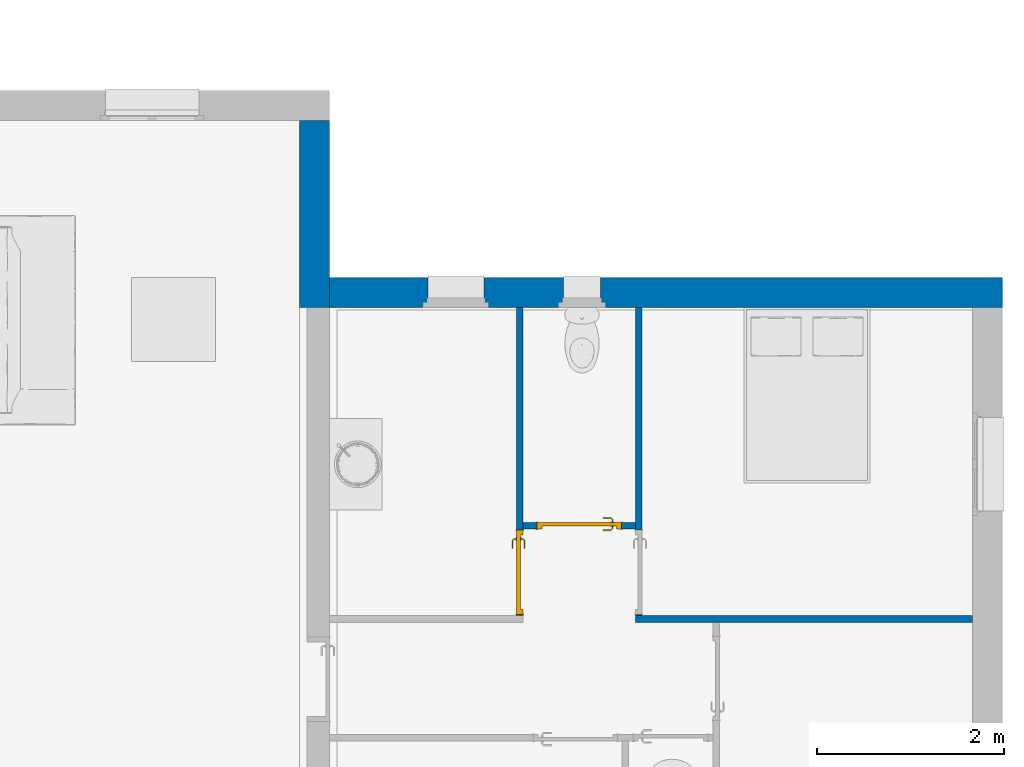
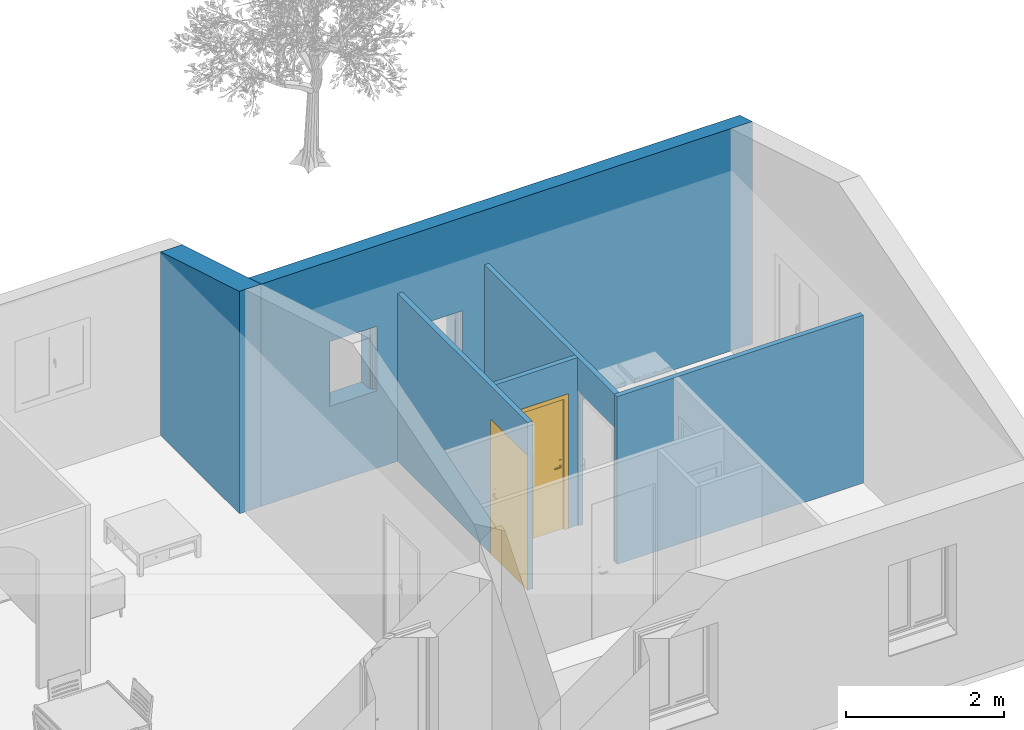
# One storey, part 6 of 18: 6 walls, 2 doors, 5 openings.
"""IFC2X3 building model written with IfcOpenShell, lengths in metres."""

from ifc_helpers import new_model, entity, si_unit, converted_unit, derived_unit, direction, frame, frame_2d, origin, place, context, subcontext, project, spatial, polyline, rectangle, extrude, clip, bounded_halfspace, faceted_brep, source, transform, mapped, material, material_list, layer, layer_set, layer_usage, type_object, type_shapes, element, fill, save


model = new_model("IFC2X3")

# Units and contexts
model_context = context("Model", 3, precision=1e-05, world=origin(), true_north=direction((6.12303176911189e-17, 1.0)))
body_context = subcontext(model_context, "Body", "Model", "MODEL_VIEW")
ifc_project = project(units=[si_unit("LENGTHUNIT", "METRE"), si_unit("AREAUNIT", "SQUARE_METRE"), si_unit("VOLUMEUNIT", "CUBIC_METRE"), converted_unit("PLANEANGLEUNIT", "DEGREE", entity("IfcRatioMeasure", 0.0174532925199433), si_unit("PLANEANGLEUNIT", "RADIAN"), dimensions=[0, 0, 0, 0, 0, 0, 0]), si_unit("MASSUNIT", "GRAM", prefix="KILO"), derived_unit("MASSDENSITYUNIT", [(si_unit("MASSUNIT", "GRAM", prefix="KILO"), 1), (si_unit("LENGTHUNIT", "METRE"), -3)]), derived_unit("MOMENTOFINERTIAUNIT", [(si_unit("LENGTHUNIT", "METRE"), 4)]), si_unit("TIMEUNIT", "SECOND"), si_unit("FREQUENCYUNIT", "HERTZ"), si_unit("THERMODYNAMICTEMPERATUREUNIT", "DEGREE_CELSIUS"), derived_unit("THERMALTRANSMITTANCEUNIT", [(si_unit("MASSUNIT", "GRAM", prefix="KILO"), 1), (si_unit("THERMODYNAMICTEMPERATUREUNIT", "KELVIN"), -1), (si_unit("TIMEUNIT", "SECOND"), -3)]), derived_unit("VOLUMETRICFLOWRATEUNIT", [(si_unit("LENGTHUNIT", "METRE"), 3), (si_unit("TIMEUNIT", "SECOND"), -1)]), si_unit("ELECTRICCURRENTUNIT", "AMPERE"), si_unit("ELECTRICVOLTAGEUNIT", "VOLT"), si_unit("POWERUNIT", "WATT"), si_unit("FORCEUNIT", "NEWTON", prefix="KILO"), si_unit("ILLUMINANCEUNIT", "LUX"), si_unit("LUMINOUSFLUXUNIT", "LUMEN"), si_unit("LUMINOUSINTENSITYUNIT", "CANDELA"), derived_unit("USERDEFINED", [(si_unit("MASSUNIT", "GRAM", prefix="KILO"), -1), (si_unit("LENGTHUNIT", "METRE"), -2), (si_unit("TIMEUNIT", "SECOND"), 3), (si_unit("LUMINOUSFLUXUNIT", "LUMEN"), 1)]), derived_unit("LINEARVELOCITYUNIT", [(si_unit("LENGTHUNIT", "METRE"), 1), (si_unit("TIMEUNIT", "SECOND"), -1)]), si_unit("PRESSUREUNIT", "PASCAL"), derived_unit("USERDEFINED", [(si_unit("LENGTHUNIT", "METRE"), -2), (si_unit("MASSUNIT", "GRAM", prefix="KILO"), 1), (si_unit("TIMEUNIT", "SECOND"), -2)]), derived_unit("LINEARFORCEUNIT", [(si_unit("MASSUNIT", "GRAM", prefix="KILO"), 1), (si_unit("LENGTHUNIT", "METRE"), 1), (si_unit("TIMEUNIT", "SECOND"), -2), (si_unit("LENGTHUNIT", "METRE"), -1)]), derived_unit("PLANARFORCEUNIT", [(si_unit("MASSUNIT", "GRAM", prefix="KILO"), 1), (si_unit("LENGTHUNIT", "METRE"), 1), (si_unit("TIMEUNIT", "SECOND"), -2), (si_unit("LENGTHUNIT", "METRE"), -2)])], contexts=[model_context])

# Site, building, storey
site_placement = place(None, origin())
site = spatial("IfcSite", under=ifc_project, at=site_placement, Name="Surface", CompositionType="ELEMENT")
building_placement = place(site_placement, origin())
building = spatial("IfcBuilding", under=site, at=building_placement, CompositionType="ELEMENT")
storey_placement = place(building_placement, origin())
storey = spatial("IfcBuildingStorey", under=building, at=storey_placement, Name="RDC", CompositionType="ELEMENT", Elevation=-1.94916083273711e-14)

# Wall
ifc_material_1 = material(Name="Maçonnerie - Enduit")
ifc_layer_1 = layer(ifc_material_1, 0.02)
ifc_material_2 = material(Name="Blocs béton manufacturés")
ifc_layer_2 = layer(ifc_material_2, 0.2)
ifc_material_3 = material(Name="Maçonnerie - Isolant")
ifc_layer_3 = layer(ifc_material_3, 0.1)
ifc_layer_set_1 = layer_set([ifc_layer_1, ifc_layer_2, ifc_layer_3], Name="Mur de base:Ext. Parpaing 20 + Isolant 10")
ifc_layer_usage_1 = layer_usage(ifc_layer_set_1, "AXIS2", "NEGATIVE", 0.16)
wall_type_1 = type_object("IfcWallType", Name="Mur de base:Ext. Parpaing 20 + Isolant 10", PredefinedType="STANDARD", material=ifc_layer_set_1)
wall_1_placement = place(storey_placement, frame((-11.2682926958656, 8.66737977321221, 0.0), z_axis=(0.0, 0.0, 1.0), x_axis=(0.0, -1.0, 0.0)))
element("IfcWallStandardCase", 1, at=wall_1_placement, inside=storey, type_object=wall_type_1, material=ifc_layer_usage_1, Name="Mur de base:Ext. Parpaing 20 + Isolant 10", ObjectType="Mur de base:Ext. Parpaing 20 + Isolant 10", context=body_context, shape_type="Clipping", body=[
    clip(extrude(rectangle(XDim=2.0, YDim=0.320000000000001, at=frame_2d((1.0, 0.0), x_axis=(-1.0, 0.0))), origin(), (0.0, 0.0, 1.0), 3.44600000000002), bounded_halfspace(frame((0.0, -0.16, 2.84600000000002), z_axis=(-0.287347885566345, 0.0, 0.957826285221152), x_axis=(0.0, -1.0, 0.0)), False, frame((0.0, -0.16, 2.84600000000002)), polyline([(0.0, 0.0), (2.0, 0.0), (2.0, 0.0800000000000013), (2.0, 0.320000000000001), (1.68, 0.320000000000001), (0.0, 0.320000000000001), (0.0, 0.0)]))),
])

# Wall, openings
ifc_layer_usage_2 = layer_usage(ifc_layer_set_1, "AXIS2", "NEGATIVE", 0.16)
wall_2_placement = place(storey_placement, frame((-11.1082926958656, 6.82737977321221, 0.0)))
wall_2 = element("IfcWallStandardCase", 2, at=wall_2_placement, inside=storey, type_object=wall_type_1, material=ifc_layer_usage_2, Name="Mur de base:Ext. Parpaing 20 + Isolant 10", ObjectType="Mur de base:Ext. Parpaing 20 + Isolant 10", context=body_context, shape_type="Clipping", body=[
    clip(extrude(rectangle(XDim=7.2, YDim=0.320000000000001, at=frame_2d((3.6, 0.0), x_axis=(-1.0, 0.0))), origin(), (0.0, 0.0, 1.0), 3.44600000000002), bounded_halfspace(frame((0.0, -0.159999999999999, 3.44600000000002), z_axis=(0.0, 0.287347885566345, 0.957826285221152), x_axis=(-1.0, 0.0, 0.0)), False, frame((0.0, -0.159999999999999, 3.44600000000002)), polyline([(0.0, 0.0), (6.88, 0.0), (7.2, 0.0), (7.2, 0.32), (0.0, 0.32), (0.0, 0.0)]))),
])
opening_1_placement = place(wall_2_placement, frame((1.0, -0.500000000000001, 1.1240395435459)))
element("IfcOpeningElement", 3, at=opening_1_placement, cuts=wall_2, Name="Mur de base:Ext. Parpaing 20 + Isolant 10", ObjectType="Opening", context=body_context, shape_type="Brep", body=[
    faceted_brep([(0.0499999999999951, 0.419999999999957, 0.0759604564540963), (0.0499999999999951, 0.440000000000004, 0.0759604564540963), (0.0499999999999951, 0.440000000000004, 1.0259604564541), (0.0499999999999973, 1.0, 1.0259604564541), (0.0499999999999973, 1.0, 0.0), (0.0499999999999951, 0.419999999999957, 0.0609604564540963), (0.649999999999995, 0.0, 0.0759604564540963), (0.649999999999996, 0.340000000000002, 0.0759604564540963), (0.649999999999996, 0.340000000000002, 1.0259604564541), (0.649999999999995, 0.0, 1.0259604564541), (0.0499999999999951, 0.0, 0.0759604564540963), (0.0499999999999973, 0.340000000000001, 0.0759604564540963), (0.0, 0.340000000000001, 0.0759604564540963), (0.0, 0.39, 0.0759604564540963), (0.0399999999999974, 0.39, 0.0759604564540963), (0.0399999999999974, 0.440000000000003, 0.0759604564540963), (0.649999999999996, 0.419999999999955, 0.0759604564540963), (0.649999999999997, 0.440000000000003, 0.0759604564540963), (0.659999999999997, 0.440000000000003, 0.0759604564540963), (0.659999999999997, 0.39, 0.0759604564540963), (0.699999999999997, 0.39, 0.0759604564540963), (0.699999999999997, 0.340000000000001, 0.0759604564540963), (0.0499999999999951, 0.0, 1.0259604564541), (0.649999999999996, 0.440000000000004, 1.0259604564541), (0.649999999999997, 1.0, 1.0259604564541), (0.649999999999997, 1.0, 0.0), (0.649999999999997, 0.419999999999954, 0.0609604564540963), (0.0, 0.340000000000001, 1.0759604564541), (0.0, 0.39, 1.0759604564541), (0.699999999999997, 0.39, 1.0759604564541), (0.659999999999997, 0.39, 1.0359604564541), (0.0399999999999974, 0.39, 1.0359604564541), (0.0399999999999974, 0.440000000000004, 1.0359604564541), (0.659999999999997, 0.440000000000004, 1.0359604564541), (0.0499999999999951, 0.340000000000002, 1.0259604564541), (0.699999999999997, 0.340000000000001, 1.0759604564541)], [[[0, 1, 2, 3, 4, 5]], [[6, 7, 8, 9]], [[10, 11, 12, 13, 14, 15, 1, 0, 16, 17, 18, 19, 20, 21, 7, 6]], [[10, 6, 9, 22]], [[3, 2, 23, 24]], [[3, 24, 25, 4]], [[4, 25, 26, 5]], [[5, 26, 16, 0]], [[12, 27, 28, 13]], [[13, 28, 29, 20, 19, 30, 31, 14]], [[14, 31, 32, 15]], [[15, 32, 33, 18, 17, 23, 2, 1]], [[11, 34, 8, 7, 21, 35, 27, 12]], [[27, 35, 29, 28]], [[30, 33, 32, 31]], [[29, 35, 21, 20]], [[19, 18, 33, 30]], [[9, 8, 34, 22]], [[24, 23, 17, 16, 26, 25]], [[22, 34, 11, 10]]]),
])
opening_2_placement = place(wall_2_placement, frame((2.45, -0.500000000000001, 1.1240395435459)))
element("IfcOpeningElement", 4, at=opening_2_placement, cuts=wall_2, Name="Mur de base:Ext. Parpaing 20 + Isolant 10", ObjectType="Opening", context=body_context, shape_type="Brep", body=[
    faceted_brep([(0.0500000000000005, 0.419999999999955, 0.075960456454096), (0.0500000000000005, 0.440000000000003, 0.075960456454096), (0.0500000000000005, 0.440000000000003, 0.825960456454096), (0.0500000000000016, 1.0, 0.825960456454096), (0.0500000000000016, 1.0, 0.0), (0.0500000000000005, 0.419999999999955, 0.0609604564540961), (0.45, 0.0, 0.075960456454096), (0.450000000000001, 0.340000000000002, 0.075960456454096), (0.450000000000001, 0.340000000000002, 0.825960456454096), (0.45, 0.0, 0.825960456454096), (0.0499999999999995, 0.0, 0.075960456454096), (0.0499999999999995, 0.340000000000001, 0.075960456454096), (0.0, 0.340000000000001, 0.075960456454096), (0.0, 0.39, 0.075960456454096), (0.0399999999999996, 0.39, 0.075960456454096), (0.0399999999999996, 0.440000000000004, 0.075960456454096), (0.450000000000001, 0.419999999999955, 0.0759604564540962), (0.45, 0.440000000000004, 0.075960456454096), (0.459999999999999, 0.440000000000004, 0.075960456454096), (0.459999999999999, 0.39, 0.075960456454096), (0.499999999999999, 0.39, 0.075960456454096), (0.499999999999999, 0.340000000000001, 0.075960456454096), (0.0499999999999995, 0.0, 0.825960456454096), (0.450000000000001, 0.440000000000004, 0.825960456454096), (0.450000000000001, 1.0, 0.825960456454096), (0.450000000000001, 1.0, 0.0), (0.45, 0.419999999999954, 0.0609604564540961), (0.0, 0.340000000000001, 0.875960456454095), (0.0, 0.39, 0.875960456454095), (0.499999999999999, 0.39, 0.875960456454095), (0.46, 0.39, 0.835960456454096), (0.0399999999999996, 0.39, 0.835960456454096), (0.0399999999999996, 0.440000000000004, 0.835960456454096), (0.459999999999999, 0.440000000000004, 0.835960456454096), (0.0499999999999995, 0.340000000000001, 0.825960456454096), (0.5, 0.340000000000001, 0.875960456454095)], [[[0, 1, 2, 3, 4, 5]], [[6, 7, 8, 9]], [[10, 11, 12, 13, 14, 15, 1, 0, 16, 17, 18, 19, 20, 21, 7, 6]], [[10, 6, 9, 22]], [[3, 2, 23, 24]], [[3, 24, 25, 4]], [[4, 25, 26, 5]], [[5, 26, 16, 0]], [[12, 27, 28, 13]], [[13, 28, 29, 20, 19, 30, 31, 14]], [[14, 31, 32, 15]], [[15, 32, 33, 18, 17, 23, 2, 1]], [[11, 34, 8, 7, 21, 35, 27, 12]], [[27, 35, 29, 28]], [[30, 33, 32, 31]], [[29, 35, 21, 20]], [[19, 18, 33, 30]], [[9, 8, 34, 22]], [[24, 23, 17, 16, 26, 25]], [[22, 34, 11, 10]]]),
])

# Wall, opening, door
ifc_material_4 = material(Name="Mur par défaut")
ifc_layer_4 = layer(ifc_material_4, 0.07)
ifc_layer_set_2 = layer_set([ifc_layer_4], Name="Mur de base:Int. Plâtre 70 mm")
ifc_layer_usage_3 = layer_usage(ifc_layer_set_2, "AXIS2", "NEGATIVE", 0.035)
wall_type_2 = type_object("IfcWallType", Name="Mur de base:Int. Plâtre 70 mm", PredefinedType="STANDARD", material=ifc_layer_set_2)
wall_3_placement = place(storey_placement, frame((-9.07329269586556, 6.66737977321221, 0.0), z_axis=(0.0, 0.0, 1.0), x_axis=(0.0, -1.0, 0.0)))
wall_3 = element("IfcWallStandardCase", 5, at=wall_3_placement, inside=storey, type_object=wall_type_2, material=ifc_layer_usage_3, Name="Mur de base:Int. Plâtre 70 mm", ObjectType="Mur de base:Int. Plâtre 70 mm", context=body_context, shape_type="SweptSolid", body=[
    extrude(rectangle(XDim=3.3, YDim=0.0699999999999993, at=frame_2d((1.65, 1.66533453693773e-16), x_axis=(-1.0, 0.0))), origin(), (0.0, 0.0, 1.0), 2.6),
])
opening_3_placement = place(wall_3_placement, frame((3.285, 0.0349999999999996, 0.0)))
opening_3 = element("IfcOpeningElement", 6, at=opening_3_placement, cuts=wall_3, Name="Int. Simple:PP (0.83m x 2.04m):1", ObjectType="Opening", context=body_context, shape_type="SweptSolid", body=[
    extrude(rectangle(XDim=2.075, YDim=0.9, at=frame_2d((1.0375, 0.45), x_axis=(1.0, 0.0))), frame((0.0, 0.0, 0.0), z_axis=(0.0, -1.0, 0.0), x_axis=(0.0, 0.0, 1.0)), (0.0, 0.0, 1.0), 0.07),
])
ifc_material_5 = material(Name="Finition Peinture - Blanc satiné")
ifc_material_6 = material(Name="Bois - Panneau de porte")
ifc_material_7 = material(Name="Bois - Cadre de porte")
ifc_material_list_1 = material_list([ifc_material_5, ifc_material_6, ifc_material_7])
ifc_material_list_2 = material_list([ifc_material_6, ifc_material_7, ifc_material_5, ifc_material_7])
door_style = type_object("IfcDoorStyle", Name="Int. Simple:PP (0.83m x 2.04m)", ConstructionType="NOTDEFINED", OperationType="NOTDEFINED", ParameterTakesPrecedence=False, Sizeable=False, material=ifc_material_list_2)
shared_shape = source(origin(), body_context, "Body", "Brep", [
    faceted_brep([(0.105352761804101, -0.00500000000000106, 0.866003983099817), (0.115, -0.00500000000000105, 0.870000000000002), (0.114999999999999, -0.00500000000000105, 1.08), (0.1053527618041, -0.00500000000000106, 1.08399601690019), (0.094999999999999, -0.00500000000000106, 1.08535898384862), (0.0846472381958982, -0.00500000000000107, 1.08399601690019), (0.0749999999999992, -0.00500000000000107, 1.08), (0.0750000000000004, -0.00500000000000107, 0.870000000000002), (0.0846472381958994, -0.00500000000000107, 0.866003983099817), (0.0950000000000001, -0.00500000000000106, 0.86464101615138), (0.1053527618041, 0.0, 1.08399601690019), (0.114999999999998, 0.0, 1.08), (0.115, 0.0, 0.870000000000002), (0.105352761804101, 0.0, 0.866003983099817), (0.0950000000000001, 0.0, 0.86464101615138), (0.0846472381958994, 0.0, 0.866003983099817), (0.0749999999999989, 0.0, 0.870000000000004), (0.0749999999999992, 0.0, 1.08), (0.0846472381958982, 0.0, 1.08399601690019), (0.094999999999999, 0.0, 1.08535898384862)], [[[0, 1, 2, 3, 4, 5, 6, 7, 8, 9]], [[10, 11, 12, 13, 14, 15, 16, 17, 18, 19]], [[16, 15, 8, 7]], [[8, 15, 14, 9]], [[14, 13, 0, 9]], [[13, 12, 1, 0]], [[2, 1, 12, 11]], [[11, 10, 3, 2]], [[3, 10, 19, 4]], [[19, 18, 5, 4]], [[18, 17, 6, 5]], [[7, 6, 17, 16]]]),
    faceted_brep([(0.105352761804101, 0.0399999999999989, 0.866003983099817), (0.115, 0.0399999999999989, 0.870000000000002), (0.114999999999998, 0.0399999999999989, 1.08), (0.105352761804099, 0.0399999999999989, 1.08399601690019), (0.0949999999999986, 0.0399999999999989, 1.08535898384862), (0.084647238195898, 0.0399999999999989, 1.08399601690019), (0.0749999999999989, 0.0399999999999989, 1.08), (0.0750000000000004, 0.0399999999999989, 0.870000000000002), (0.0846472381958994, 0.0399999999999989, 0.866003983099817), (0.0950000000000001, 0.0399999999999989, 0.86464101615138), (0.105352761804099, 0.0449999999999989, 1.08399601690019), (0.114999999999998, 0.0449999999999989, 1.08), (0.115, 0.0449999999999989, 0.870000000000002), (0.105352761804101, 0.0449999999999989, 0.866003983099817), (0.0950000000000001, 0.0449999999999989, 0.86464101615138), (0.0846472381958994, 0.0449999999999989, 0.866003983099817), (0.0749999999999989, 0.0449999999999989, 0.870000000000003), (0.0749999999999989, 0.0449999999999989, 1.08), (0.084647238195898, 0.0449999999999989, 1.08399601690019), (0.0949999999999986, 0.0449999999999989, 1.08535898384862)], [[[0, 1, 2, 3, 4, 5, 6, 7, 8, 9]], [[10, 11, 12, 13, 14, 15, 16, 17, 18, 19]], [[11, 10, 3, 2]], [[3, 10, 19, 4]], [[19, 18, 5, 4]], [[18, 17, 6, 5]], [[7, 6, 17, 16]], [[16, 15, 8, 7]], [[8, 15, 14, 9]], [[14, 13, 0, 9]], [[13, 12, 1, 0]], [[2, 1, 12, 11]]]),
    faceted_brep([(0.0929747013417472, -0.00500000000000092, 1.00778044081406), (0.0970252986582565, -0.0050000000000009, 1.00778044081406), (0.101000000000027, -0.00500000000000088, 1.00699999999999), (0.101000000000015, -0.00500000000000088, 0.993000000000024), (0.0970252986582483, -0.0050000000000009, 0.992219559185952), (0.0929747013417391, -0.00500000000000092, 0.99221955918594), (0.0889999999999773, -0.00500000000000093, 0.992999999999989), (0.0889999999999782, -0.00500000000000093, 1.007), (0.0889999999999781, -0.0326509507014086, 1.007), (0.092974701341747, -0.0310045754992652, 1.00778044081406), (0.10902358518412, -0.0470534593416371, 1.00778044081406), (0.110701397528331, -0.0430028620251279, 1.00778044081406), (0.0970252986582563, -0.0293267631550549, 1.00778044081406), (0.101000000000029, -0.0276803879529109, 1.007), (0.101000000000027, -0.0276803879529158, 0.993000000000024), (0.0970252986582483, -0.0293267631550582, 0.992219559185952), (0.110701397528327, -0.0430028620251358, 0.992219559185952), (0.109023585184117, -0.0470534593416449, 0.99221955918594), (0.0929747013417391, -0.0310045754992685, 0.99221955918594), (0.0889999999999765, -0.0326509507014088, 0.992999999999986), (0.107377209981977, -0.0510281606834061, 1.007), (0.112347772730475, -0.0390281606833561, 1.007), (0.112347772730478, -0.0390281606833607, 0.993000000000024), (0.107377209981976, -0.0510281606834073, 0.992999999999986), (0.195018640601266, -0.0510281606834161, 0.992999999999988), (0.195018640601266, -0.0470534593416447, 0.99221955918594), (0.195018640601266, -0.0430028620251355, 0.992219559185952), (0.195018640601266, -0.039028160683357, 0.993000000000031), (0.195018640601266, -0.0390281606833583, 1.007), (0.195018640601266, -0.0430028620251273, 1.00778044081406), (0.195018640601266, -0.0470534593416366, 1.00778044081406), (0.195018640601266, -0.0510281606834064, 1.00699999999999), (0.147307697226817, -0.0510281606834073, 1.007), (0.152860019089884, -0.045028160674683, 1.0078786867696), (0.15368320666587, -0.039028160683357, 1.007), (0.153683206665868, -0.039028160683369, 0.993000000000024), (0.152860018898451, -0.0450281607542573, 0.992121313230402), (0.147307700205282, -0.0510281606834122, 0.992999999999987)], [[[0, 1, 2, 3, 4, 5, 6, 7]], [[8, 9, 0, 7]], [[9, 10, 11, 12, 1, 0]], [[12, 13, 2, 1]], [[3, 2, 13, 14]], [[14, 15, 4, 3]], [[15, 16, 17, 18, 5, 4]], [[18, 19, 6, 5]], [[7, 6, 19, 8]], [[20, 10, 9, 8]], [[11, 21, 13, 12]], [[14, 13, 21, 22]], [[22, 16, 15, 14]], [[17, 23, 19, 18]], [[8, 19, 23, 20]], [[24, 25, 26, 27, 28, 29, 30, 31]], [[32, 30, 33]], [[31, 30, 32]], [[10, 20, 32]], [[33, 34, 11]], [[21, 11, 34]], [[34, 29, 28]], [[30, 29, 33]], [[29, 34, 33]], [[10, 32, 33]], [[10, 33, 11]], [[22, 21, 34, 28, 27, 35]], [[35, 26, 36]], [[37, 36, 25]], [[22, 35, 16]], [[35, 27, 26]], [[24, 37, 25]], [[23, 17, 37]], [[37, 17, 36]], [[17, 16, 36]], [[16, 35, 36]], [[25, 36, 26]], [[20, 23, 37, 24, 31, 32]]]),
    faceted_brep([(0.0929747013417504, 0.0449999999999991, 1.00778044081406), (0.0889999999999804, 0.044999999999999, 1.007), (0.0889999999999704, 0.044999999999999, 0.992999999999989), (0.0929747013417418, 0.0449999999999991, 0.99221955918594), (0.0970252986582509, 0.0449999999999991, 0.992219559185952), (0.10100000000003, 0.0449999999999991, 0.993000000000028), (0.101000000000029, 0.0449999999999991, 1.007), (0.0970252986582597, 0.0449999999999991, 1.00778044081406), (0.10100000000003, 0.067485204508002, 0.993000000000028), (0.10100000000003, 0.0674852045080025, 1.007), (0.0970252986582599, 0.0691315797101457, 1.00778044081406), (0.110838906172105, 0.0829451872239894, 1.00778044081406), (0.109161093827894, 0.0869957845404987, 1.00778044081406), (0.0929747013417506, 0.070809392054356, 1.00778044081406), (0.0889999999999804, 0.0724557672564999, 1.007), (0.0889999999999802, 0.072455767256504, 0.992999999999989), (0.0929747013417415, 0.0708093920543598, 0.99221955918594), (0.109161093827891, 0.0869957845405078, 0.99221955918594), (0.110838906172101, 0.0829451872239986, 0.992219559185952), (0.0970252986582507, 0.0691315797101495, 0.992219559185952), (0.112485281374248, 0.0789704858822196, 0.993000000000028), (0.112485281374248, 0.0789704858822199, 1.007), (0.107514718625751, 0.0909704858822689, 1.007), (0.107514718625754, 0.090970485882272, 0.992999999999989), (0.195045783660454, 0.0789704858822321, 0.993000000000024), (0.195045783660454, 0.0829451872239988, 0.992219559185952), (0.195045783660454, 0.086995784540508, 0.99221955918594), (0.195045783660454, 0.0909704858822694, 0.992999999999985), (0.195045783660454, 0.0909704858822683, 1.007), (0.195045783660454, 0.0869957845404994, 1.00778044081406), (0.195045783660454, 0.0829451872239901, 1.00778044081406), (0.195045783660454, 0.0789704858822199, 1.007), (0.153765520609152, 0.0789704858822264, 0.993000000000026), (0.153765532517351, 0.0789704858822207, 1.007), (0.152942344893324, 0.0849704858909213, 1.0078786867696), (0.147445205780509, 0.0909704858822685, 1.007), (0.147445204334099, 0.0909704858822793, 0.992999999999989), (0.152942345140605, 0.0849704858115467, 0.992121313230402)], [[[0, 1, 2, 3, 4, 5, 6, 7]], [[6, 5, 8, 9]], [[9, 10, 7, 6]], [[10, 11, 12, 13, 0, 7]], [[13, 14, 1, 0]], [[2, 1, 14, 15]], [[15, 16, 3, 2]], [[16, 17, 18, 19, 4, 3]], [[19, 8, 5, 4]], [[9, 8, 20, 21]], [[21, 11, 10, 9]], [[12, 22, 14, 13]], [[15, 14, 22, 23]], [[23, 17, 16, 15]], [[18, 20, 8, 19]], [[24, 25, 26, 27, 28, 29, 30, 31]], [[21, 20, 32, 24, 31, 33]], [[33, 30, 34]], [[35, 34, 29]], [[21, 33, 11]], [[33, 31, 30]], [[28, 35, 29]], [[22, 12, 35]], [[35, 12, 34]], [[12, 11, 34]], [[11, 33, 34]], [[29, 34, 30]], [[22, 35, 28, 27, 36, 23]], [[36, 26, 37]], [[27, 26, 36]], [[17, 23, 36]], [[37, 32, 18]], [[20, 18, 32]], [[32, 25, 24]], [[26, 25, 37]], [[25, 32, 37]], [[17, 36, 37]], [[17, 37, 18]]]),
    faceted_brep([(0.034999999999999, 0.04, 2.04), (0.865, 0.04, 2.04), (0.864999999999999, 0.04, 0.0), (0.034999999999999, 0.04, 0.0), (0.034999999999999, 0.0, 2.04), (0.034999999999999, 0.0, 0.0), (0.864999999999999, 0.0, 0.0), (0.865, 0.0, 2.04)], [[[0, 1, 2, 3]], [[4, 5, 6, 7]], [[1, 0, 4, 7]], [[2, 1, 7, 6]], [[3, 2, 6, 5]], [[0, 3, 5, 4]]]),
    faceted_brep([(0.0, 0.0, 0.0), (0.0, 0.0699999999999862, 0.0), (0.0500000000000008, 0.0699999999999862, 0.0), (0.0500000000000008, 0.04, 0.0), (0.0349999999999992, 0.04, 0.0), (0.0349999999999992, 0.0, 0.0), (0.0, 0.0, 2.07500000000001), (0.0, 0.0699999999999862, 2.07500000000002), (0.900000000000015, 0.0699999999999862, 2.07500000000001), (0.900000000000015, 0.0699999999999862, 0.0), (0.849999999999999, 0.0699999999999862, 0.0), (0.849999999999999, 0.0699999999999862, 2.025), (0.0500000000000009, 0.0699999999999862, 2.025), (0.0500000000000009, 0.04, 2.025), (0.849999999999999, 0.04, 2.025), (0.849999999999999, 0.04, 0.0), (0.865000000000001, 0.04, 0.0), (0.865000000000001, 0.04, 2.04), (0.0349999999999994, 0.04, 2.04), (0.0349999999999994, 0.0, 2.04), (0.865000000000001, 0.0, 2.04), (0.865000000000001, 0.0, 0.0), (0.900000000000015, 0.0, 0.0), (0.900000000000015, 0.0, 2.07500000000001)], [[[0, 1, 2, 3, 4, 5]], [[1, 0, 6, 7]], [[2, 1, 7, 8, 9, 10, 11, 12]], [[3, 2, 12, 13]], [[4, 3, 13, 14, 15, 16, 17, 18]], [[5, 4, 18, 19]], [[0, 5, 19, 20, 21, 22, 23, 6]], [[8, 23, 22, 9]], [[22, 21, 16, 15, 10, 9]], [[14, 11, 10, 15]], [[20, 17, 16, 21]], [[7, 6, 23, 8]], [[13, 12, 11, 14]], [[19, 18, 17, 20]]]),
    faceted_brep([(0.0149999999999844, 0.0699999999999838, 0.0), (-0.0150000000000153, 0.0699999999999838, 0.0), (-0.0150000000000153, 0.0749999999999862, 0.0), (0.0149999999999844, 0.0749999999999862, 0.0), (0.0149999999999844, 0.0699999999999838, 2.06000000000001), (0.88499999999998, 0.0699999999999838, 2.06000000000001), (0.88499999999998, 0.0699999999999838, 0.0), (0.91499999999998, 0.0699999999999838, 0.0), (0.91499999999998, 0.0699999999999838, 2.09000000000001), (-0.0150000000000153, 0.0699999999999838, 2.09000000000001), (-0.0150000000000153, 0.0749999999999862, 2.09000000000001), (0.91499999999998, 0.0749999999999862, 2.09000000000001), (0.91499999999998, 0.0749999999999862, 0.0), (0.88499999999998, 0.0749999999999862, 0.0), (0.88499999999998, 0.0749999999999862, 2.06000000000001), (0.0149999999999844, 0.0749999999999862, 2.06000000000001)], [[[0, 1, 2, 3]], [[1, 0, 4, 5, 6, 7, 8, 9]], [[2, 1, 9, 10]], [[3, 2, 10, 11, 12, 13, 14, 15]], [[0, 3, 15, 4]], [[6, 13, 12, 7]], [[5, 14, 13, 6]], [[11, 8, 7, 12]], [[10, 9, 8, 11]], [[4, 15, 14, 5]]]),
    faceted_brep([(-0.0150000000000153, -0.00499999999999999, 0.0), (0.0149999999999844, -0.00499999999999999, 0.0), (0.0149999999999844, -0.00499999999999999, 2.06000000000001), (0.88499999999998, -0.00499999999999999, 2.06000000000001), (0.88499999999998, -0.00499999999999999, 0.0), (0.91499999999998, -0.00499999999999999, 0.0), (0.91499999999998, -0.00499999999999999, 2.09000000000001), (-0.0150000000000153, -0.00499999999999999, 2.09000000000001), (-0.0150000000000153, 0.0, 0.0), (-0.0150000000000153, 0.0, 2.09000000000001), (0.0149999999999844, 0.0, 0.0), (0.91499999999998, 0.0, 2.09000000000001), (0.91499999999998, 0.0, 0.0), (0.88499999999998, 0.0, 0.0), (0.88499999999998, 0.0, 2.06000000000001), (0.0149999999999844, 0.0, 2.06000000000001)], [[[0, 1, 2, 3, 4, 5, 6, 7]], [[8, 0, 7, 9]], [[10, 8, 9, 11, 12, 13, 14, 15]], [[1, 10, 15, 2]], [[3, 14, 13, 4]], [[11, 6, 5, 12]], [[9, 7, 6, 11]], [[2, 15, 14, 3]], [[4, 13, 12, 5]], [[1, 0, 8, 10]]]),
])
type_shapes(door_style, [shared_shape])
door_1_placement = place(opening_3_placement, frame((-0.9, -0.0700000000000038, 0.0)))
door_1 = element("IfcDoor", 7, at=door_1_placement, inside=storey, type_object=door_style, material=ifc_material_list_1, Name="Int. Simple:PP (0.83m x 2.04m)", ObjectType="Int. Simple:PP (0.83m x 2.04m)", OverallHeight=2.075, OverallWidth=0.9, context=body_context, shape_type="MappedRepresentation", body=[
    mapped(shared_shape, transform((0.0, 0.0, 0.0), scale=1.0)),
])
fill(opening_3, door_1)

ifc_layer_usage_4 = layer_usage(ifc_layer_set_2, "AXIS2", "NEGATIVE", 0.035)
wall_4_placement = place(storey_placement, frame((-7.83829269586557, 4.33237977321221, 0.0), z_axis=(0.0, 0.0, 1.0), x_axis=(-1.0, 0.0, 0.0)))
wall_4 = element("IfcWallStandardCase", 8, at=wall_4_placement, inside=storey, type_object=wall_type_2, material=ifc_layer_usage_4, Name="Mur de base:Int. Plâtre 70 mm", ObjectType="Mur de base:Int. Plâtre 70 mm", context=body_context, shape_type="SweptSolid", body=[
    extrude(rectangle(XDim=1.2, YDim=0.0700000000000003, at=frame_2d((0.6, -8.67361737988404e-17), x_axis=(-1.0, 0.0))), origin(), (0.0, 0.0, 1.0), 2.6),
])
opening_4_placement = place(wall_4_placement, frame((1.05, 0.0349999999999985, 0.0)))
opening_4 = element("IfcOpeningElement", 9, at=opening_4_placement, cuts=wall_4, Name="Int. Simple:PP (0.83m x 2.04m):1", ObjectType="Opening", context=body_context, shape_type="SweptSolid", body=[
    extrude(rectangle(XDim=2.075, YDim=0.9, at=frame_2d((1.0375, 0.45), x_axis=(1.0, 0.0))), frame((0.0, 0.0, 0.0), z_axis=(0.0, -1.0, 0.0), x_axis=(0.0, 0.0, 1.0)), (0.0, 0.0, 1.0), 0.07),
])
ifc_material_list_3 = material_list([ifc_material_5, ifc_material_6, ifc_material_7])
door_2_placement = place(opening_4_placement, frame((-0.899999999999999, -0.0699999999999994, 0.0)))
door_2 = element("IfcDoor", 10, at=door_2_placement, inside=storey, type_object=door_style, material=ifc_material_list_3, Name="Int. Simple:PP (0.83m x 2.04m)", ObjectType="Int. Simple:PP (0.83m x 2.04m)", OverallHeight=2.075, OverallWidth=0.9, context=body_context, shape_type="MappedRepresentation", body=[
    mapped(shared_shape, transform((0.0, 0.0, 0.0), scale=1.0)),
])
fill(opening_4, door_2)

# Wall, opening
ifc_layer_usage_5 = layer_usage(ifc_layer_set_2, "AXIS2", "NEGATIVE", 0.035)
wall_5_placement = place(storey_placement, frame((-7.80329269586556, 6.66737977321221, 0.0), z_axis=(0.0, 0.0, 1.0), x_axis=(0.0, -1.0, 0.0)))
wall_5 = element("IfcWallStandardCase", 11, at=wall_5_placement, inside=storey, type_object=wall_type_2, material=ifc_layer_usage_5, Name="Mur de base:Int. Plâtre 70 mm", ObjectType="Mur de base:Int. Plâtre 70 mm", context=body_context, shape_type="SweptSolid", body=[
    extrude(rectangle(XDim=3.3, YDim=0.0699999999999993, at=frame_2d((1.65, -3.40005801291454e-16), x_axis=(-1.0, 0.0))), origin(), (0.0, 0.0, 1.0), 2.6),
])
opening_5_placement = place(wall_5_placement, frame((2.38500000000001, -0.0349999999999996, 0.0)))
element("IfcOpeningElement", 12, at=opening_5_placement, cuts=wall_5, Name="Int. Simple:PP (0.83m x 2.04m):1", ObjectType="Opening", context=body_context, shape_type="SweptSolid", body=[
    extrude(rectangle(XDim=2.075, YDim=0.9, at=frame_2d((1.0375, 0.45), x_axis=(1.0, 0.0))), frame((0.0, 0.0, 0.0), z_axis=(0.0, 1.0, 0.0), x_axis=(0.0, 0.0, 1.0)), (0.0, 0.0, 1.0), 0.07),
])

# Wall
ifc_layer_usage_6 = layer_usage(ifc_layer_set_2, "AXIS2", "NEGATIVE", 0.035)
wall_6_placement = place(storey_placement, frame((-4.22829269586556, 3.3323797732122, 0.0), z_axis=(0.0, 0.0, 1.0), x_axis=(-1.0, 0.0, 0.0)))
element("IfcWallStandardCase", 13, at=wall_6_placement, inside=storey, type_object=wall_type_2, material=ifc_layer_usage_6, Name="Mur de base:Int. Plâtre 70 mm", ObjectType="Mur de base:Int. Plâtre 70 mm", context=body_context, shape_type="SweptSolid", body=[
    extrude(rectangle(XDim=3.61000000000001, YDim=0.0700000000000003, at=frame_2d((1.805, 9.36750677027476e-17), x_axis=(-1.0, 0.0))), origin(), (0.0, 0.0, 1.0), 2.6),
])

save(model, "model.ifc")
